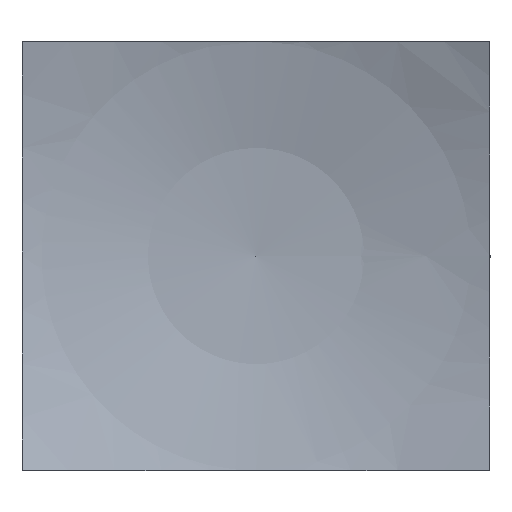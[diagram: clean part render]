
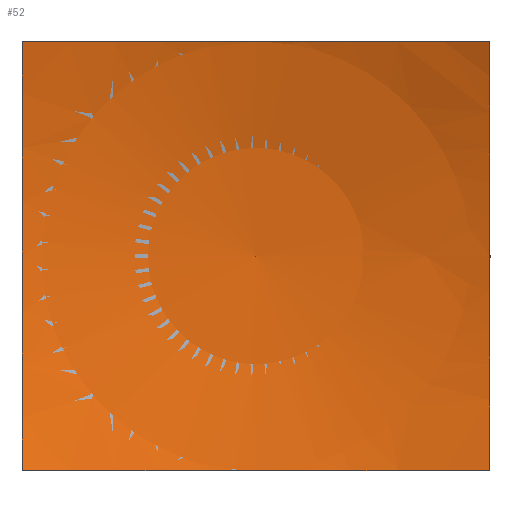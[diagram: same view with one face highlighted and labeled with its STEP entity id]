
A CAD part, top view. The second image highlights one B-rep face of the part: STEP entity #52.
In plain terms, the highlighted spherical face has radius 1100 mm.
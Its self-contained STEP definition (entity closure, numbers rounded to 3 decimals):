
#52 = ADVANCED_FACE( '', ( #103 ), #104, .F. );
#103 = FACE_OUTER_BOUND( '', #153, .T. );
#104 = SPHERICAL_SURFACE( '', #154, 1100. );
#153 = EDGE_LOOP( '', ( #211, #212, #213, #214 ) );
#154 = AXIS2_PLACEMENT_3D( '', #215, #216, #217 );
#211 = ORIENTED_EDGE( '', *, *, #297, .T. );
#212 = ORIENTED_EDGE( '', *, *, #298, .T. );
#213 = ORIENTED_EDGE( '', *, *, #299, .T. );
#214 = ORIENTED_EDGE( '', *, *, #286, .T. );
#215 = CARTESIAN_POINT( '', ( 0., 0., 1100. ) );
#216 = DIRECTION( '', ( 0., 0., 1. ) );
#217 = DIRECTION( '', ( 1., 0., 0. ) );
#286 = EDGE_CURVE( '', #319, #324, #326, .F. );
#297 = EDGE_CURVE( '', #324, #343, #344, .F. );
#298 = EDGE_CURVE( '', #343, #345, #346, .F. );
#299 = EDGE_CURVE( '', #345, #319, #347, .F. );
#319 = VERTEX_POINT( '', #371 );
#324 = VERTEX_POINT( '', #377 );
#326 = CIRCLE( '', #380, 1065.07 );
#343 = VERTEX_POINT( '', #399 );
#344 = CIRCLE( '', #400, 1058.301 );
#345 = VERTEX_POINT( '', #401 );
#346 = CIRCLE( '', #402, 1065.07 );
#347 = CIRCLE( '', #403, 1058.301 );
#371 = CARTESIAN_POINT( '', ( -300., -275., 78.053 ) );
#377 = CARTESIAN_POINT( '', ( 300., -275., 78.053 ) );
#380 = AXIS2_PLACEMENT_3D( '', #435, #436, #437 );
#399 = CARTESIAN_POINT( '', ( 300., 275., 78.053 ) );
#400 = AXIS2_PLACEMENT_3D( '', #455, #456, #457 );
#401 = CARTESIAN_POINT( '', ( -300., 275., 78.053 ) );
#402 = AXIS2_PLACEMENT_3D( '', #458, #459, #460 );
#403 = AXIS2_PLACEMENT_3D( '', #461, #462, #463 );
#435 = CARTESIAN_POINT( '', ( 0., -275., 1100. ) );
#436 = DIRECTION( '', ( 0., 1., 0. ) );
#437 = DIRECTION( '', ( -1., 0., 0. ) );
#455 = CARTESIAN_POINT( '', ( 300., 0., 1100. ) );
#456 = DIRECTION( '', ( -1., 0., 0. ) );
#457 = DIRECTION( '', ( 0., 0., 1. ) );
#458 = CARTESIAN_POINT( '', ( 0., 275., 1100. ) );
#459 = DIRECTION( '', ( 0., -1., 0. ) );
#460 = DIRECTION( '', ( 1., 0., 0. ) );
#461 = CARTESIAN_POINT( '', ( -300., 0., 1100. ) );
#462 = DIRECTION( '', ( 1., 0., 0. ) );
#463 = DIRECTION( '', ( 0., 1., 0. ) );
